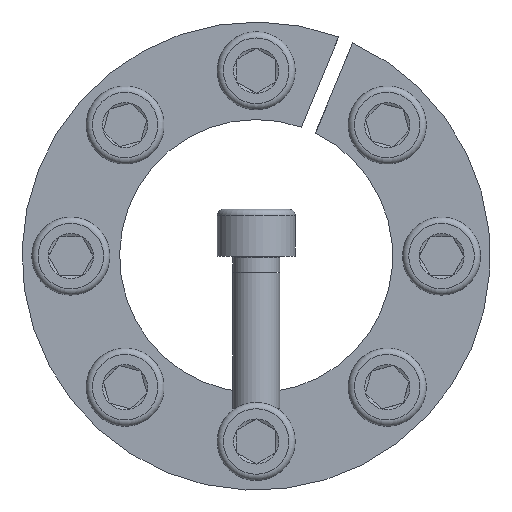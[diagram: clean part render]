
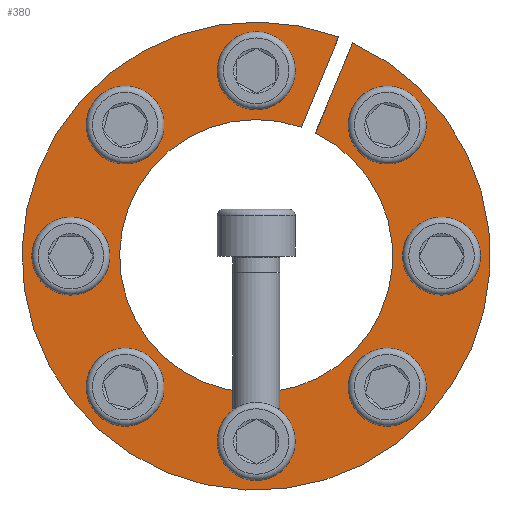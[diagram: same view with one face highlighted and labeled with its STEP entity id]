
A CAD part, front view. The second image highlights one B-rep face of the part: STEP entity #380.
In plain terms, the highlighted planar face has unit normal (0, -1, 0).
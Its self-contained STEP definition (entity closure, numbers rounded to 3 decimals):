
#380 = ADVANCED_FACE( '', ( #583, #584, #585, #586, #587, #588, #589, #590, #591 ), #592, .F. );
#583 = FACE_BOUND( '', #747, .T. );
#584 = FACE_BOUND( '', #748, .T. );
#585 = FACE_BOUND( '', #749, .T. );
#586 = FACE_BOUND( '', #750, .T. );
#587 = FACE_OUTER_BOUND( '', #751, .T. );
#588 = FACE_BOUND( '', #752, .T. );
#589 = FACE_BOUND( '', #753, .T. );
#590 = FACE_BOUND( '', #754, .T. );
#591 = FACE_BOUND( '', #755, .T. );
#592 = PLANE( '', #756 );
#747 = EDGE_LOOP( '', ( #960 ) );
#748 = EDGE_LOOP( '', ( #961 ) );
#749 = EDGE_LOOP( '', ( #962 ) );
#750 = EDGE_LOOP( '', ( #963 ) );
#751 = EDGE_LOOP( '', ( #964, #965, #966, #967 ) );
#752 = EDGE_LOOP( '', ( #968 ) );
#753 = EDGE_LOOP( '', ( #969 ) );
#754 = EDGE_LOOP( '', ( #970 ) );
#755 = EDGE_LOOP( '', ( #971 ) );
#756 = AXIS2_PLACEMENT_3D( '', #972, #973, #974 );
#960 = ORIENTED_EDGE( '', *, *, #1294, .T. );
#961 = ORIENTED_EDGE( '', *, *, #1295, .T. );
#962 = ORIENTED_EDGE( '', *, *, #1296, .T. );
#963 = ORIENTED_EDGE( '', *, *, #1297, .T. );
#964 = ORIENTED_EDGE( '', *, *, #1292, .F. );
#965 = ORIENTED_EDGE( '', *, *, #1288, .F. );
#966 = ORIENTED_EDGE( '', *, *, #1298, .T. );
#967 = ORIENTED_EDGE( '', *, *, #1299, .F. );
#968 = ORIENTED_EDGE( '', *, *, #1300, .T. );
#969 = ORIENTED_EDGE( '', *, *, #1301, .T. );
#970 = ORIENTED_EDGE( '', *, *, #1302, .T. );
#971 = ORIENTED_EDGE( '', *, *, #1303, .T. );
#972 = CARTESIAN_POINT( '', ( 0., 0., 30. ) );
#973 = DIRECTION( '', ( 0., 1., 0. ) );
#974 = DIRECTION( '', ( 0., 0., 1. ) );
#1288 = EDGE_CURVE( '', #1423, #1425, #1426, .T. );
#1292 = EDGE_CURVE( '', #1425, #1432, #1433, .T. );
#1294 = EDGE_CURVE( '', #1435, #1435, #1436, .T. );
#1295 = EDGE_CURVE( '', #1437, #1437, #1438, .T. );
#1296 = EDGE_CURVE( '', #1439, #1439, #1440, .T. );
#1297 = EDGE_CURVE( '', #1441, #1441, #1442, .T. );
#1298 = EDGE_CURVE( '', #1423, #1443, #1444, .T. );
#1299 = EDGE_CURVE( '', #1432, #1443, #1445, .T. );
#1300 = EDGE_CURVE( '', #1446, #1446, #1447, .T. );
#1301 = EDGE_CURVE( '', #1448, #1448, #1449, .T. );
#1302 = EDGE_CURVE( '', #1450, #1450, #1451, .T. );
#1303 = EDGE_CURVE( '', #1452, #1452, #1453, .T. );
#1423 = VERTEX_POINT( '', #1551 );
#1425 = VERTEX_POINT( '', #1554 );
#1426 = LINE( '', #1555, #1556 );
#1432 = VERTEX_POINT( '', #1564 );
#1433 = CIRCLE( '', #1565, 17.5 );
#1435 = VERTEX_POINT( '', #1568 );
#1436 = CIRCLE( '', #1569, 3. );
#1437 = VERTEX_POINT( '', #1570 );
#1438 = CIRCLE( '', #1571, 3. );
#1439 = VERTEX_POINT( '', #1572 );
#1440 = CIRCLE( '', #1573, 3. );
#1441 = VERTEX_POINT( '', #1574 );
#1442 = CIRCLE( '', #1575, 3. );
#1443 = VERTEX_POINT( '', #1576 );
#1444 = CIRCLE( '', #1577, 30. );
#1445 = LINE( '', #1578, #1579 );
#1446 = VERTEX_POINT( '', #1580 );
#1447 = CIRCLE( '', #1581, 3. );
#1448 = VERTEX_POINT( '', #1582 );
#1449 = CIRCLE( '', #1583, 3. );
#1450 = VERTEX_POINT( '', #1584 );
#1451 = CIRCLE( '', #1585, 3. );
#1452 = VERTEX_POINT( '', #1586 );
#1453 = CIRCLE( '', #1587, 3. );
#1551 = CARTESIAN_POINT( '', ( 10.566, 0., 28.078 ) );
#1554 = CARTESIAN_POINT( '', ( 5.778, 0., 16.519 ) );
#1555 = CARTESIAN_POINT( '', ( 10.572, 0., 28.093 ) );
#1556 = VECTOR( '', #1674, 1000. );
#1564 = CARTESIAN_POINT( '', ( 7.595, 0., 15.766 ) );
#1565 = AXIS2_PLACEMENT_3D( '', #1680, #1681, #1682 );
#1568 = CARTESIAN_POINT( '', ( -23.75, 0., 3. ) );
#1569 = AXIS2_PLACEMENT_3D( '', #1684, #1685, #1686 );
#1570 = CARTESIAN_POINT( '', ( -3., 0., -23.75 ) );
#1571 = AXIS2_PLACEMENT_3D( '', #1687, #1688, #1689 );
#1572 = CARTESIAN_POINT( '', ( 23.75, 0., -3. ) );
#1573 = AXIS2_PLACEMENT_3D( '', #1690, #1691, #1692 );
#1574 = CARTESIAN_POINT( '', ( 3., 0., 23.75 ) );
#1575 = AXIS2_PLACEMENT_3D( '', #1693, #1694, #1695 );
#1576 = CARTESIAN_POINT( '', ( 12.383, 0., 27.325 ) );
#1577 = AXIS2_PLACEMENT_3D( '', #1696, #1697, #1698 );
#1578 = CARTESIAN_POINT( '', ( 7.595, 0., 15.766 ) );
#1579 = VECTOR( '', #1699, 1000. );
#1580 = CARTESIAN_POINT( '', ( 18.915, 0., 14.672 ) );
#1581 = AXIS2_PLACEMENT_3D( '', #1700, #1701, #1702 );
#1582 = CARTESIAN_POINT( '', ( 14.672, 0., -18.915 ) );
#1583 = AXIS2_PLACEMENT_3D( '', #1703, #1704, #1705 );
#1584 = CARTESIAN_POINT( '', ( -18.915, 0., -14.672 ) );
#1585 = AXIS2_PLACEMENT_3D( '', #1706, #1707, #1708 );
#1586 = CARTESIAN_POINT( '', ( -14.672, 0., 18.915 ) );
#1587 = AXIS2_PLACEMENT_3D( '', #1709, #1710, #1711 );
#1674 = DIRECTION( '', ( -0.383, 0., -0.924 ) );
#1680 = CARTESIAN_POINT( '', ( 0., 0., 0. ) );
#1681 = DIRECTION( '', ( 0., -1., 0. ) );
#1682 = DIRECTION( '', ( 0., 0., -1. ) );
#1684 = CARTESIAN_POINT( '', ( -23.75, 0., 0. ) );
#1685 = DIRECTION( '', ( 0., 1., 0. ) );
#1686 = DIRECTION( '', ( 0., 0., 1. ) );
#1687 = CARTESIAN_POINT( '', ( 0., 0., -23.75 ) );
#1688 = DIRECTION( '', ( 0., 1., 0. ) );
#1689 = DIRECTION( '', ( -1., 0., 0. ) );
#1690 = CARTESIAN_POINT( '', ( 23.75, 0., 0. ) );
#1691 = DIRECTION( '', ( 0., 1., 0. ) );
#1692 = DIRECTION( '', ( 0., 0., -1. ) );
#1693 = CARTESIAN_POINT( '', ( 0., 0., 23.75 ) );
#1694 = DIRECTION( '', ( 0., 1., 0. ) );
#1695 = DIRECTION( '', ( 1., 0., 0. ) );
#1696 = CARTESIAN_POINT( '', ( 0., 0., 0. ) );
#1697 = DIRECTION( '', ( 0., -1., 0. ) );
#1698 = DIRECTION( '', ( 0., 0., -1. ) );
#1699 = DIRECTION( '', ( 0.383, 0., 0.924 ) );
#1700 = CARTESIAN_POINT( '', ( 16.794, 0., 16.794 ) );
#1701 = DIRECTION( '', ( 0., 1., 0. ) );
#1702 = DIRECTION( '', ( 0.707, 0., -0.707 ) );
#1703 = CARTESIAN_POINT( '', ( 16.794, 0., -16.794 ) );
#1704 = DIRECTION( '', ( 0., 1., 0. ) );
#1705 = DIRECTION( '', ( -0.707, 0., -0.707 ) );
#1706 = CARTESIAN_POINT( '', ( -16.794, 0., -16.794 ) );
#1707 = DIRECTION( '', ( 0., 1., 0. ) );
#1708 = DIRECTION( '', ( -0.707, 0., 0.707 ) );
#1709 = CARTESIAN_POINT( '', ( -16.794, 0., 16.794 ) );
#1710 = DIRECTION( '', ( 0., 1., 0. ) );
#1711 = DIRECTION( '', ( 0.707, 0., 0.707 ) );
